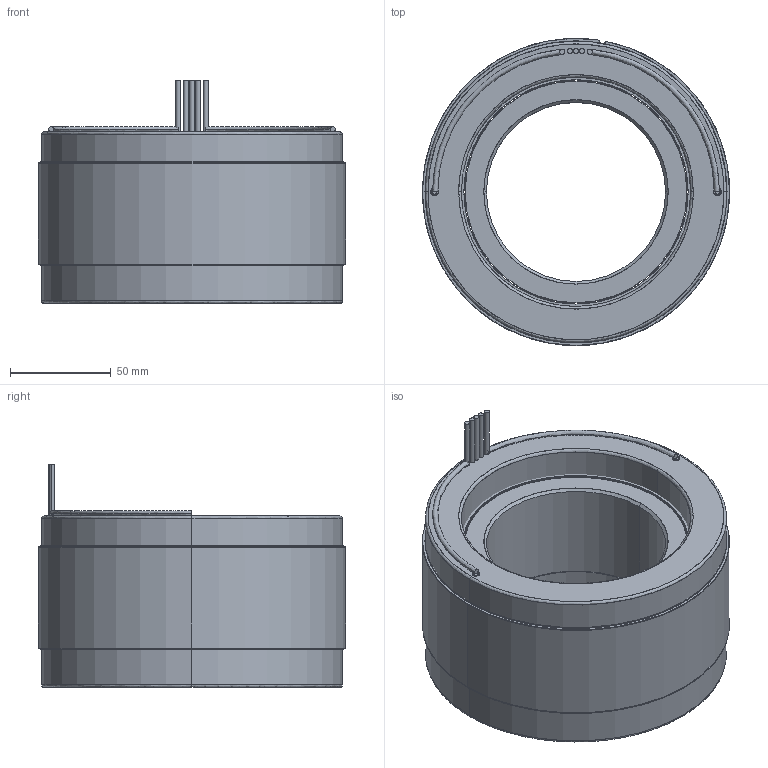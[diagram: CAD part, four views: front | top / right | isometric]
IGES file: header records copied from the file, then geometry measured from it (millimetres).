
Start section: SolidWorks IGES file using analytic representation for surfaces
Global section: file name: Z:\STANDARD STATOR ROTOR SETS\NEW DIRECT DRIVE MOTOR\6 OD 18S16P\6100338-01.IGS; native system: SolidWorks 2016; preprocessor: SolidWorks 2016; author: eng; date: 191023.153022; units: millimetre
Bounding box: 152.4 x 152.39 x 110.49 mm (x, y, z)
Surface area: 251108.9 mm2 (no closed solid volume)
Topology: 0 solids, 0 shells, 128 faces, 2952 edges, 2952 vertices
Faces by surface type: bspline 66, revolution 62
